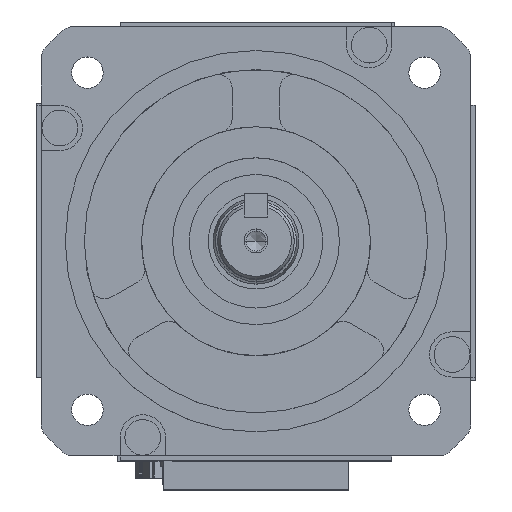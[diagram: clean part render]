
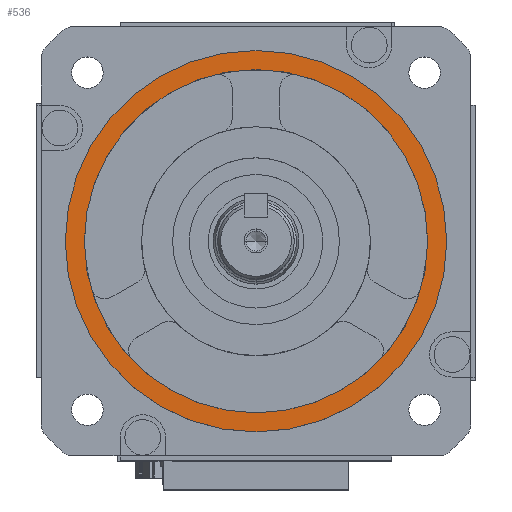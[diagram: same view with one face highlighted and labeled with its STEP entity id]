
A CAD part, top view. The second image highlights one B-rep face of the part: STEP entity #536.
In plain terms, the highlighted planar face has unit normal (0, 0, 1).
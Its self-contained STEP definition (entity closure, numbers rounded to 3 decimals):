
#536=ADVANCED_FACE('',(#4985,#4986),#4984,.T.);
#4984=PLANE('',#9020);
#4985=FACE_OUTER_BOUND('',#9021,.T.);
#4986=FACE_BOUND('',#9022,.T.);
#9017=CARTESIAN_POINT('',(-90.,-79.282,5.));
#9018=DIRECTION('',(0.,0.,1.));
#9019=DIRECTION('',(1.,0.,0.));
#9020=AXIS2_PLACEMENT_3D('',#9017,#9018,#9019);
#9021=EDGE_LOOP('',(#12472,#12473));
#9022=EDGE_LOOP('',(#12474,#12475));
#12472=ORIENTED_EDGE('',*,*,#14745,.T.);
#12473=ORIENTED_EDGE('',*,*,#14746,.T.);
#12474=ORIENTED_EDGE('',*,*,#14747,.F.);
#12475=ORIENTED_EDGE('',*,*,#14748,.F.);
#14745=EDGE_CURVE('',#24247,#24248,#24249,.T.);
#14746=EDGE_CURVE('',#24248,#24247,#24255,.T.);
#14747=EDGE_CURVE('',#24261,#24262,#24263,.T.);
#14748=EDGE_CURVE('',#24262,#24261,#24269,.T.);
#24247=VERTEX_POINT('',#31732);
#24248=VERTEX_POINT('',#31733);
#24249=CIRCLE('',#31737,40.);
#24255=CIRCLE('',#31741,40.);
#24261=VERTEX_POINT('',#31742);
#24262=VERTEX_POINT('',#31743);
#24263=CIRCLE('',#31747,36.);
#24269=CIRCLE('',#31751,36.);
#31732=CARTESIAN_POINT('',(40.,0.,5.));
#31733=CARTESIAN_POINT('',(-40.,0.,5.));
#31734=CARTESIAN_POINT('',(0.,0.,5.));
#31735=DIRECTION('',(0.,0.,1.));
#31736=DIRECTION('',(1.,0.,0.));
#31737=AXIS2_PLACEMENT_3D('',#31734,#31735,#31736);
#31738=CARTESIAN_POINT('',(0.,0.,5.));
#31739=DIRECTION('',(0.,0.,1.));
#31740=DIRECTION('',(1.,0.,0.));
#31741=AXIS2_PLACEMENT_3D('',#31738,#31739,#31740);
#31742=CARTESIAN_POINT('',(36.,0.,5.));
#31743=CARTESIAN_POINT('',(-36.,0.,5.));
#31744=CARTESIAN_POINT('',(0.,0.,5.));
#31745=DIRECTION('',(0.,0.,1.));
#31746=DIRECTION('',(-1.,0.,0.));
#31747=AXIS2_PLACEMENT_3D('',#31744,#31745,#31746);
#31748=CARTESIAN_POINT('',(0.,0.,5.));
#31749=DIRECTION('',(0.,0.,1.));
#31750=DIRECTION('',(-1.,0.,0.));
#31751=AXIS2_PLACEMENT_3D('',#31748,#31749,#31750);
